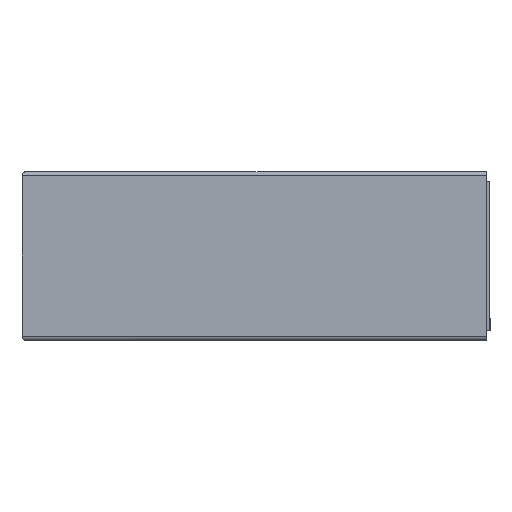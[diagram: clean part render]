
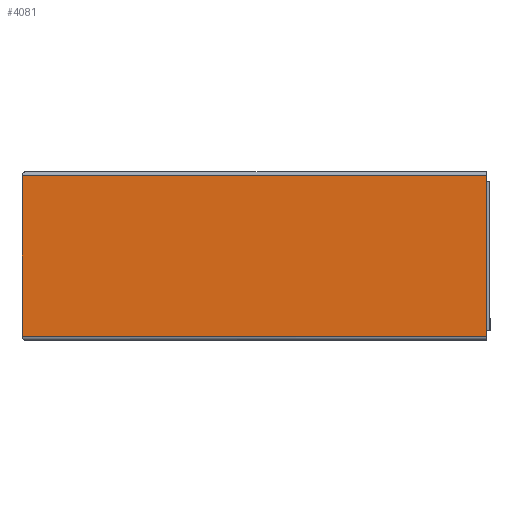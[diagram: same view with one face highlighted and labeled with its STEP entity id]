
A CAD part, left-side view. The second image highlights one B-rep face of the part: STEP entity #4081.
In plain terms, the highlighted planar face has unit normal (-1, 0, 0).
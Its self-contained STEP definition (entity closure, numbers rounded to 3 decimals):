
#345=FACE_OUTER_BOUND('',#565,.T.);
#565=EDGE_LOOP('',(#3695,#3696,#3697,#3698));
#1065=LINE('',#6564,#1579);
#1067=LINE('',#6573,#1581);
#1074=LINE('',#6589,#1588);
#1080=LINE('',#6602,#1594);
#1579=VECTOR('',#5358,304.8);
#1581=VECTOR('',#5366,304.8);
#1588=VECTOR('',#5381,304.8);
#1594=VECTOR('',#5395,304.8);
#1965=VERTEX_POINT('',#6562);
#1966=VERTEX_POINT('',#6563);
#1969=VERTEX_POINT('',#6571);
#1970=VERTEX_POINT('',#6572);
#2535=EDGE_CURVE('',#1965,#1966,#1065,.T.);
#2539=EDGE_CURVE('',#1969,#1970,#1067,.T.);
#2548=EDGE_CURVE('',#1966,#1969,#1074,.T.);
#2555=EDGE_CURVE('',#1970,#1965,#1080,.T.);
#3695=ORIENTED_EDGE('',*,*,#2555,.T.);
#3696=ORIENTED_EDGE('',*,*,#2535,.T.);
#3697=ORIENTED_EDGE('',*,*,#2548,.T.);
#3698=ORIENTED_EDGE('',*,*,#2539,.T.);
#3876=PLANE('',#4353);
#4081=ADVANCED_FACE('',(#345),#3876,.T.);
#4353=AXIS2_PLACEMENT_3D('',#6605,#5400,#5401);
#5358=DIRECTION('',(0.,-1.,0.));
#5366=DIRECTION('',(0.,1.,0.));
#5381=DIRECTION('',(0.,0.,1.));
#5395=DIRECTION('',(0.,0.,-1.));
#5400=DIRECTION('center_axis',(-1.,0.,0.));
#5401=DIRECTION('ref_axis',(0.,0.,1.));
#6562=CARTESIAN_POINT('',(-125.,63.566,1.));
#6563=CARTESIAN_POINT('',(-125.,-63.434,1.));
#6564=CARTESIAN_POINT('',(-125.,63.566,1.));
#6571=CARTESIAN_POINT('',(-125.,-63.434,45.011));
#6572=CARTESIAN_POINT('',(-125.,63.566,45.011));
#6573=CARTESIAN_POINT('',(-125.,-63.434,45.011));
#6589=CARTESIAN_POINT('',(-125.,-63.434,1.));
#6602=CARTESIAN_POINT('',(-125.,63.566,45.011));
#6605=CARTESIAN_POINT('Origin',(-125.,61.566,1.));
